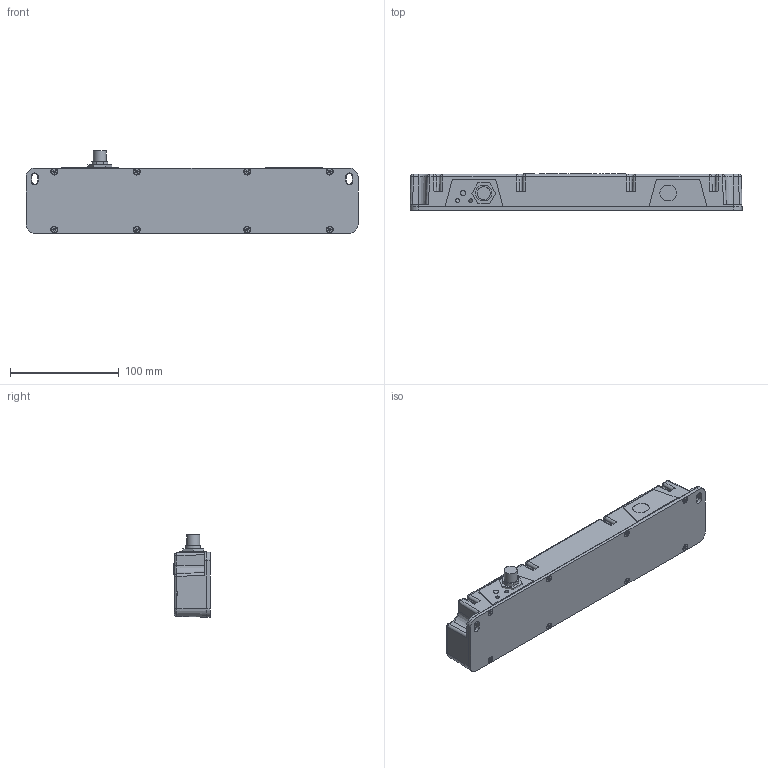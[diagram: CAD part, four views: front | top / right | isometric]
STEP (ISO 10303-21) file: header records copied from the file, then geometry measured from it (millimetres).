
FILE_DESCRIPTION (( 'STEP AP203' ), '1' );
FILE_NAME ('LC300.step', '2011-10-25T17:02:09', ( '' ), ( '' ), 'SwSTEP 2.0', 'SolidWorks 2011', '' );
FILE_SCHEMA (( 'CONFIG_CONTROL_DESIGN' ));
Length unit declared in the file: millimetre
Products named in the file (6): LC300; fsfdk-connector; LC300-032_A; LC300-031; LC300-030; LC300-020_B
Assembly tree (12 placements, depth 2):
  LC300
    LC300-031  x8
    LC300-030
    LC300-020_B
    fsfdk-connector
    LC300-032_A
Bounding box: 306 x 33.67 x 75.92 mm (x, y, z)
Volume: 235275.9 mm3; surface area: 150658.1 mm2
Topology: 29 solids, 29 shells, 1041 faces, 2542 edges, 1574 vertices
Faces by surface type: plane 552, cylinder 229, bspline 120, cone 62, torus 42, sphere 36
Full cylindrical faces by diameter (mm): 0.8 x5, 1.2 x4, 1.329 x3, 2.5 x8, 2.647 x8, 3.4 x8, 3.5 x2, 4.763 x1, 12 x1, 21.5 x12
Entity records: 30310 total; most frequent: CARTESIAN_POINT 9895, ORIENTED_EDGE 4090, DIRECTION 3754, EDGE_CURVE 2045, VERTEX_POINT 1339, AXIS2_PLACEMENT_3D 1254, LINE 1246, VECTOR 1246
